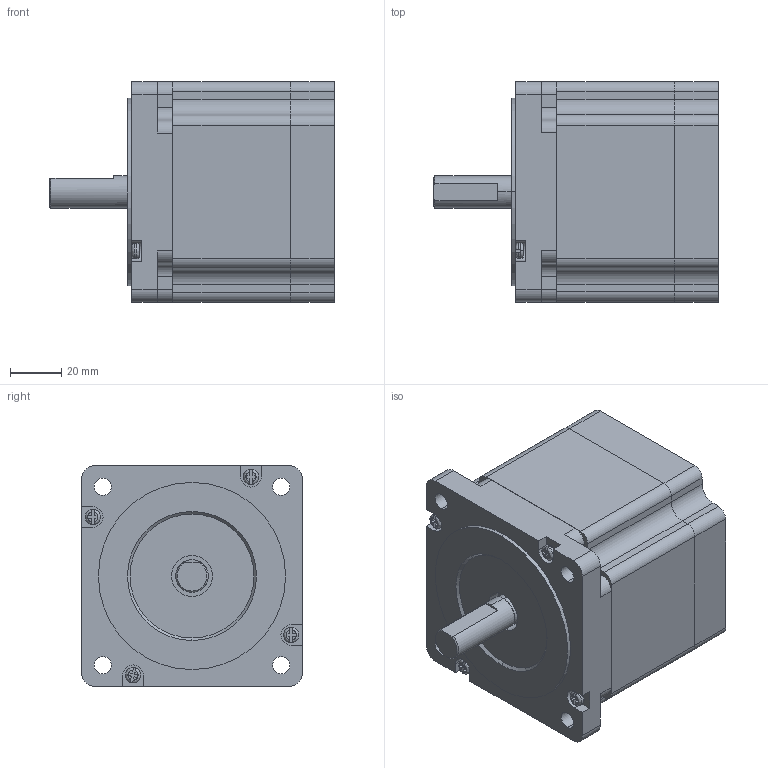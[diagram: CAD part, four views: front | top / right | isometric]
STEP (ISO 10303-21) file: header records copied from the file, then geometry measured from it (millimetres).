
FILE_DESCRIPTION (( 'STEP AP203' ), '1' );
FILE_NAME ('86J1880-842.STEP', '2018-06-08T06:24:23', ( 'User' ), ( 'china' ), 'SwSTEP 2.0', 'SolidWorks 2015', '' );
FILE_SCHEMA (( 'CONFIG_CONTROL_DESIGN' ));
Length unit declared in the file: millimetre
Products named in the file (5): 86J1880-842Z-01儂旯; 86J1880-842綴裔_1; M4 蹟佪芛_1; 86奻裔晦粣DIA12.7mm; 86J1880-842
Assembly tree (7 placements, depth 2):
  86J1880-842
    86J1880-842Z-01儂旯
    86J1880-842綴裔_1
    M4 蹟佪芛_1  x4
    86奻裔晦粣DIA12.7mm
Bounding box: 111 x 86 x 86 mm (x, y, z)
Volume: 536561 mm3; surface area: 73178.6 mm2
Topology: 7 solids, 7 shells, 268 faces, 722 edges, 473 vertices
Faces by surface type: plane 121, cylinder 119, bspline 16, cone 12
Entity records: 6601 total; most frequent: CARTESIAN_POINT 1133, DIRECTION 1070, ORIENTED_EDGE 1000, EDGE_CURVE 500, AXIS2_PLACEMENT_3D 390, VERTEX_POINT 329, LINE 290, VECTOR 290
